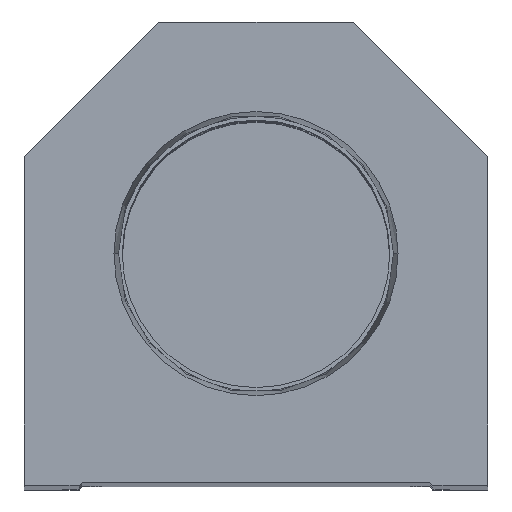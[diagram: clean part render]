
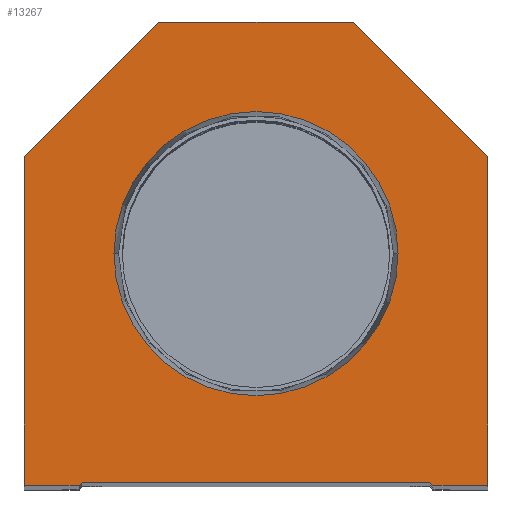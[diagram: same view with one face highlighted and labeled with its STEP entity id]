
A CAD part, top view. The second image highlights one B-rep face of the part: STEP entity #13267.
In plain terms, the highlighted planar face has unit normal (0, 0, 1).
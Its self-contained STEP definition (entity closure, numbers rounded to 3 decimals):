
#56 = CARTESIAN_POINT ( 'NONE',  ( -28.6, 0.5, 0. ) ) ;
#338 = CARTESIAN_POINT ( 'NONE',  ( -38.1, 0., 0. ) ) ;
#493 = CARTESIAN_POINT ( 'NONE',  ( 16., 76.2, 0. ) ) ;
#1002 = ORIENTED_EDGE ( 'NONE', *, *, #7716, .T. ) ;
#1134 = CARTESIAN_POINT ( 'NONE',  ( 28.6, 0.5, 0. ) ) ;
#2085 = ORIENTED_EDGE ( 'NONE', *, *, #9832, .F. ) ;
#2237 = LINE ( 'NONE', #20479, #3549 ) ;
#2255 = ORIENTED_EDGE ( 'NONE', *, *, #17995, .T. ) ;
#2423 = VERTEX_POINT ( 'NONE', #9794 ) ;
#2429 = VERTEX_POINT ( 'NONE', #338 ) ;
#2694 = VECTOR ( 'NONE', #15417, 1000. ) ;
#2802 = LINE ( 'NONE', #22734, #10591 ) ;
#2843 = CARTESIAN_POINT ( 'NONE',  ( -28.6, 0.5, 0. ) ) ;
#3452 = CARTESIAN_POINT ( 'NONE',  ( 38.1, 54.1, 0. ) ) ;
#3526 = DIRECTION ( 'NONE',  ( 1., 0., 0. ) ) ;
#3549 = VECTOR ( 'NONE', #16080, 1000. ) ;
#3888 = DIRECTION ( 'NONE',  ( -0.707, 0.707, 0. ) ) ;
#4275 = ORIENTED_EDGE ( 'NONE', *, *, #17669, .T. ) ;
#4486 = DIRECTION ( 'NONE',  ( 1., 0., 0. ) ) ;
#4557 = ORIENTED_EDGE ( 'NONE', *, *, #12886, .T. ) ;
#5053 = DIRECTION ( 'NONE',  ( 1., 0., 0. ) ) ;
#5084 = CARTESIAN_POINT ( 'NONE',  ( -14.55, 14.55, 0. ) ) ;
#5433 = CARTESIAN_POINT ( 'NONE',  ( 16., 76.2, 0. ) ) ;
#5644 = DIRECTION ( 'NONE',  ( 0., 1., 0. ) ) ;
#5731 = LINE ( 'NONE', #19440, #25324 ) ;
#5796 = VERTEX_POINT ( 'NONE', #23339 ) ;
#5963 = LINE ( 'NONE', #5433, #22126 ) ;
#6033 = CIRCLE ( 'NONE', #12644, 23.374 ) ;
#6198 = DIRECTION ( 'NONE',  ( 0., 0., 1. ) ) ;
#6564 = VERTEX_POINT ( 'NONE', #1134 ) ;
#6686 = CARTESIAN_POINT ( 'NONE',  ( 29.1, 0., 0. ) ) ;
#7128 = VERTEX_POINT ( 'NONE', #56 ) ;
#7280 = DIRECTION ( 'NONE',  ( 0., -1., 0. ) ) ;
#7286 = CARTESIAN_POINT ( 'NONE',  ( 0., 38.1, 0. ) ) ;
#7399 = LINE ( 'NONE', #2843, #12491 ) ;
#7417 = EDGE_CURVE ( 'NONE', #8760, #2429, #14899, .T. ) ;
#7716 = EDGE_CURVE ( 'NONE', #18039, #23835, #5731, .T. ) ;
#7812 = ORIENTED_EDGE ( 'NONE', *, *, #14021, .T. ) ;
#7941 = VECTOR ( 'NONE', #21231, 1000. ) ;
#8384 = FACE_OUTER_BOUND ( 'NONE', #19449, .T. ) ;
#8760 = VERTEX_POINT ( 'NONE', #19646 ) ;
#9031 = DIRECTION ( 'NONE',  ( 0.707, -0.707, 0. ) ) ;
#9272 = ORIENTED_EDGE ( 'NONE', *, *, #9781, .F. ) ;
#9382 = CARTESIAN_POINT ( 'NONE',  ( 23.374, 38.1, 0. ) ) ;
#9461 = EDGE_CURVE ( 'NONE', #23835, #23225, #5963, .T. ) ;
#9477 = ORIENTED_EDGE ( 'NONE', *, *, #10410, .T. ) ;
#9781 = EDGE_CURVE ( 'NONE', #5796, #17520, #6033, .T. ) ;
#9794 = CARTESIAN_POINT ( 'NONE',  ( 38.1, 0., 0. ) ) ;
#9832 = EDGE_CURVE ( 'NONE', #17520, #5796, #20473, .T. ) ;
#10410 = EDGE_CURVE ( 'NONE', #18515, #7128, #17359, .T. ) ;
#10591 = VECTOR ( 'NONE', #18130, 1000. ) ;
#10831 = CARTESIAN_POINT ( 'NONE',  ( 14.55, 14.55, 0. ) ) ;
#12418 = DIRECTION ( 'NONE',  ( 1., 0., 0. ) ) ;
#12491 = VECTOR ( 'NONE', #5053, 1000. ) ;
#12530 = FACE_BOUND ( 'NONE', #18563, .T. ) ;
#12644 = AXIS2_PLACEMENT_3D ( 'NONE', #7286, #13372, #3526 ) ;
#12886 = EDGE_CURVE ( 'NONE', #7128, #6564, #7399, .T. ) ;
#13267 = ADVANCED_FACE ( 'NONE', ( #12530, #8384 ), #21854, .T. ) ;
#13372 = DIRECTION ( 'NONE',  ( 0., 0., 1. ) ) ;
#13852 = DIRECTION ( 'NONE',  ( -1., 0., 0. ) ) ;
#13874 = AXIS2_PLACEMENT_3D ( 'NONE', #20311, #18111, #12418 ) ;
#14021 = EDGE_CURVE ( 'NONE', #24986, #2423, #24860, .T. ) ;
#14280 = CARTESIAN_POINT ( 'NONE',  ( -29.1, 0., 0. ) ) ;
#14353 = ORIENTED_EDGE ( 'NONE', *, *, #21554, .T. ) ;
#14621 = EDGE_CURVE ( 'NONE', #6564, #24986, #22619, .T. ) ;
#14785 = CARTESIAN_POINT ( 'NONE',  ( -38.1, 0., 0. ) ) ;
#14886 = VECTOR ( 'NONE', #5644, 1000. ) ;
#14899 = LINE ( 'NONE', #14785, #18277 ) ;
#15417 = DIRECTION ( 'NONE',  ( 0.707, 0.707, 0. ) ) ;
#16080 = DIRECTION ( 'NONE',  ( 1., 0., 0. ) ) ;
#17015 = AXIS2_PLACEMENT_3D ( 'NONE', #23921, #6198, #4486 ) ;
#17033 = VECTOR ( 'NONE', #9031, 1000. ) ;
#17063 = CARTESIAN_POINT ( 'NONE',  ( -16., 76.2, 0. ) ) ;
#17359 = LINE ( 'NONE', #5084, #2694 ) ;
#17520 = VERTEX_POINT ( 'NONE', #9382 ) ;
#17669 = EDGE_CURVE ( 'NONE', #2429, #18515, #2237, .T. ) ;
#17670 = LINE ( 'NONE', #25562, #14886 ) ;
#17995 = EDGE_CURVE ( 'NONE', #23225, #8760, #2802, .T. ) ;
#18039 = VERTEX_POINT ( 'NONE', #3452 ) ;
#18111 = DIRECTION ( 'NONE',  ( 0., 0., 1. ) ) ;
#18130 = DIRECTION ( 'NONE',  ( -0.707, -0.707, 0. ) ) ;
#18277 = VECTOR ( 'NONE', #7280, 1000. ) ;
#18515 = VERTEX_POINT ( 'NONE', #14280 ) ;
#18563 = EDGE_LOOP ( 'NONE', ( #2085, #9272 ) ) ;
#18909 = CARTESIAN_POINT ( 'NONE',  ( 28.6, 0., 0. ) ) ;
#19440 = CARTESIAN_POINT ( 'NONE',  ( 38.1, 54.1, 0. ) ) ;
#19449 = EDGE_LOOP ( 'NONE', ( #4275, #9477, #4557, #22131, #7812, #14353, #1002, #20755, #2255, #20799 ) ) ;
#19646 = CARTESIAN_POINT ( 'NONE',  ( -38.1, 54.1, 0. ) ) ;
#20311 = CARTESIAN_POINT ( 'NONE',  ( 0., 38.1, 0. ) ) ;
#20473 = CIRCLE ( 'NONE', #13874, 23.374 ) ;
#20479 = CARTESIAN_POINT ( 'NONE',  ( -28.6, 0., 0. ) ) ;
#20755 = ORIENTED_EDGE ( 'NONE', *, *, #9461, .T. ) ;
#20799 = ORIENTED_EDGE ( 'NONE', *, *, #7417, .T. ) ;
#21231 = DIRECTION ( 'NONE',  ( 1., 0., 0. ) ) ;
#21554 = EDGE_CURVE ( 'NONE', #2423, #18039, #17670, .T. ) ;
#21854 = PLANE ( 'NONE',  #17015 ) ;
#22126 = VECTOR ( 'NONE', #13852, 1000. ) ;
#22131 = ORIENTED_EDGE ( 'NONE', *, *, #14621, .T. ) ;
#22619 = LINE ( 'NONE', #10831, #17033 ) ;
#22734 = CARTESIAN_POINT ( 'NONE',  ( -38.1, 54.1, 0. ) ) ;
#23225 = VERTEX_POINT ( 'NONE', #17063 ) ;
#23339 = CARTESIAN_POINT ( 'NONE',  ( -23.374, 38.1, 0. ) ) ;
#23835 = VERTEX_POINT ( 'NONE', #493 ) ;
#23921 = CARTESIAN_POINT ( 'NONE',  ( 0., 0., 0. ) ) ;
#24860 = LINE ( 'NONE', #18909, #7941 ) ;
#24986 = VERTEX_POINT ( 'NONE', #6686 ) ;
#25324 = VECTOR ( 'NONE', #3888, 1000. ) ;
#25562 = CARTESIAN_POINT ( 'NONE',  ( 38.1, 0., 0. ) ) ;
